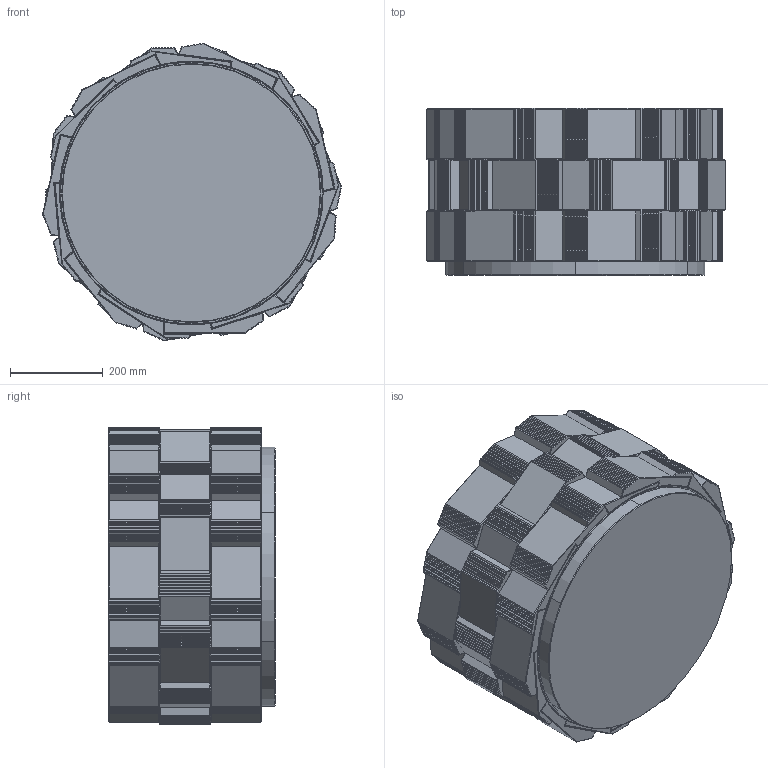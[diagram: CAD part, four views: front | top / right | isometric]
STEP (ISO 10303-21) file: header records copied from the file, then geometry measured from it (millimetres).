
FILE_DESCRIPTION (( 'STEP AP203' ), '1' );
FILE_NAME ('REPETA 10 SIDE TABLE.STEP', '2020-07-09T11:48:26', ( '' ), ( '' ), 'SwSTEP 2.0', 'SolidWorks 2020', '' );
FILE_SCHEMA (( 'CONFIG_CONTROL_DESIGN' ));
Products named in the file (1): REPETA 10 SIDE TABLE
Bounding box: 646.48 x 360 x 643.46 mm (x, y, z)
Volume: 40054002.7 mm3; surface area: 2653069.8 mm2
Topology: 1 solids, 1 shells, 2810 faces, 7721 edges, 4746 vertices
Faces by surface type: plane 2697, cylinder 56, cone 41, torus 8, bspline 8
Entity records: 87712 total; most frequent: CARTESIAN_POINT 16902, ORIENTED_EDGE 15442, DIRECTION 13441, EDGE_CURVE 7721, VECTOR 7447, LINE 7447, VERTEX_POINT 4746, AXIS2_PLACEMENT_3D 2997
